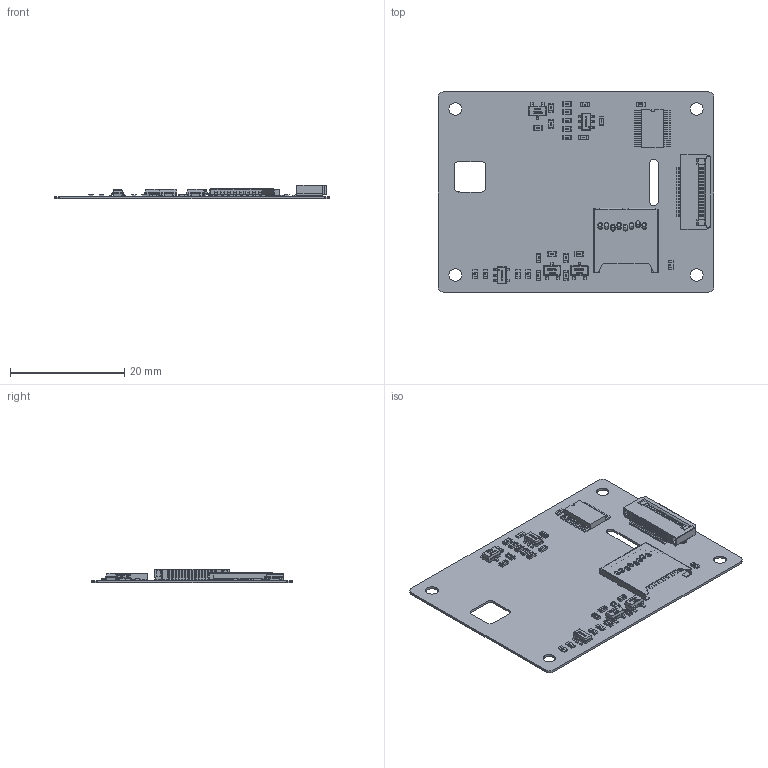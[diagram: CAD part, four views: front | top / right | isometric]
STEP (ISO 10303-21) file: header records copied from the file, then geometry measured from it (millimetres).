
FILE_DESCRIPTION(('Open CASCADE Model'),'2;1');
FILE_NAME('Open CASCADE Shape Model','2024-11-15T15:20:51',('Author'),( 'Open CASCADE'),'Open CASCADE STEP processor 6.5','Open CASCADE 6.5' ,'Unknown');
FILE_SCHEMA(('AUTOMOTIVE_DESIGN { 1 0 10303 214 1 1 1 1 }'));
Length unit declared in the file: millimetre
Products named in the file (61): PCB; Board; C1; User_Library-0603_SMD_Capacitor; C2; C3; C4; C5; C6; C7; J1; TF-110; COMPOUND001; L1; FPC0.5_2H-S-W-18P; FPC0_5_2H-S-W-18P-10402_AF0_ASM; FPC0_5_2H-W__1_2_30012; FPC0_5_2H-S-W-18P-2644_AF0_ASM; 6_1_2_3_4_5_6_7_8_0006; 7_1_2_3_4_5_6_7_8_0008; M1; SOT23-6; SOT23-6-13550_AF0_ASM; SOT23-5AND6__100; SOT23-6-7933_AF0; Q1; SOT-23; Q2; R1; R0603; R_0603-3615_AF0_ASM; R_0603-3601_AF0_ASM; _2_1_2_3_4_AF0; _7_1_2_AF0; 5_1_2_3_400; R2; R3; R4; R5; R6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
Assembly tree (128 placements, depth 6):
  PCB
    Board
    C1
      User_Library-0603_SMD_Capacitor
    C2
      User_Library-0603_SMD_Capacitor
    C3
      User_Library-0603_SMD_Capacitor
    C4
      User_Library-0603_SMD_Capacitor
    C5
      User_Library-0603_SMD_Capacitor
    C6
      User_Library-0603_SMD_Capacitor
    C7
      User_Library-0603_SMD_Capacitor
    J1
      TF-110
        COMPOUND001
    L1
      FPC0.5_2H-S-W-18P
        FPC0_5_2H-S-W-18P-10402_AF0_ASM
          FPC0_5_2H-W__1_2_30012  x18
          FPC0_5_2H-S-W-18P-2644_AF0_ASM
            6_1_2_3_4_5_6_7_8_0006
            7_1_2_3_4_5_6_7_8_0008
    M1
      SOT23-6
        SOT23-6-13550_AF0_ASM
          SOT23-5AND6__100  x6
          SOT23-6-7933_AF0
    Q1
      SOT-23
    Q2
      SOT-23
    R1
      R0603
        R_0603-3615_AF0_ASM
          R_0603-3601_AF0_ASM
            _2_1_2_3_4_AF0
            _7_1_2_AF0
            5_1_2_3_400
    R2
      R0603
        R_0603-3615_AF0_ASM
          R_0603-3601_AF0_ASM
            _2_1_2_3_4_AF0
            _7_1_2_AF0
            5_1_2_3_400
    R3
      R0603
        R_0603-3615_AF0_ASM
          R_0603-3601_AF0_ASM
            _2_1_2_3_4_AF0
            _7_1_2_AF0
            5_1_2_3_400
    R4
      R0603
        R_0603-3615_AF0_ASM
          R_0603-3601_AF0_ASM
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Bounding box: 48.22 x 35.02 x 2.41 mm (x, y, z)
Volume: 905.1 mm3; surface area: 4986.7 mm2
Topology: 115 solids, 115 shells, 13410 faces, 37850 edges, 27688 vertices
Faces by surface type: plane 9149, extrusion 2801, cylinder 645, bspline 576, sphere 151, torus 88
Full cylindrical faces by diameter (mm): 2.2 x4
Entity records: 320469 total; most frequent: CARTESIAN_POINT 118822, DIRECTION 31240, VECTOR 23828, LINE 23277, ORIENTED_EDGE 18954, PCURVE 18954, DEFINITIONAL_REPRESENTATION 18954, EDGE_CURVE 9477
